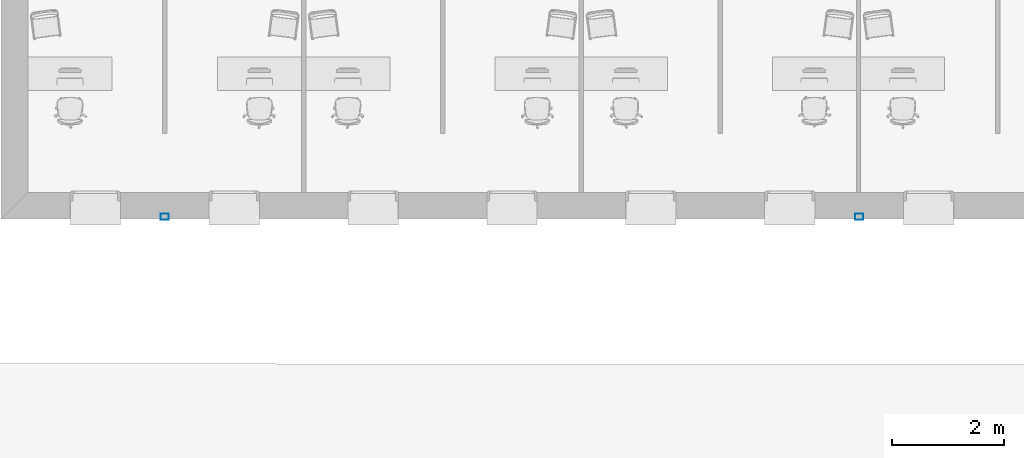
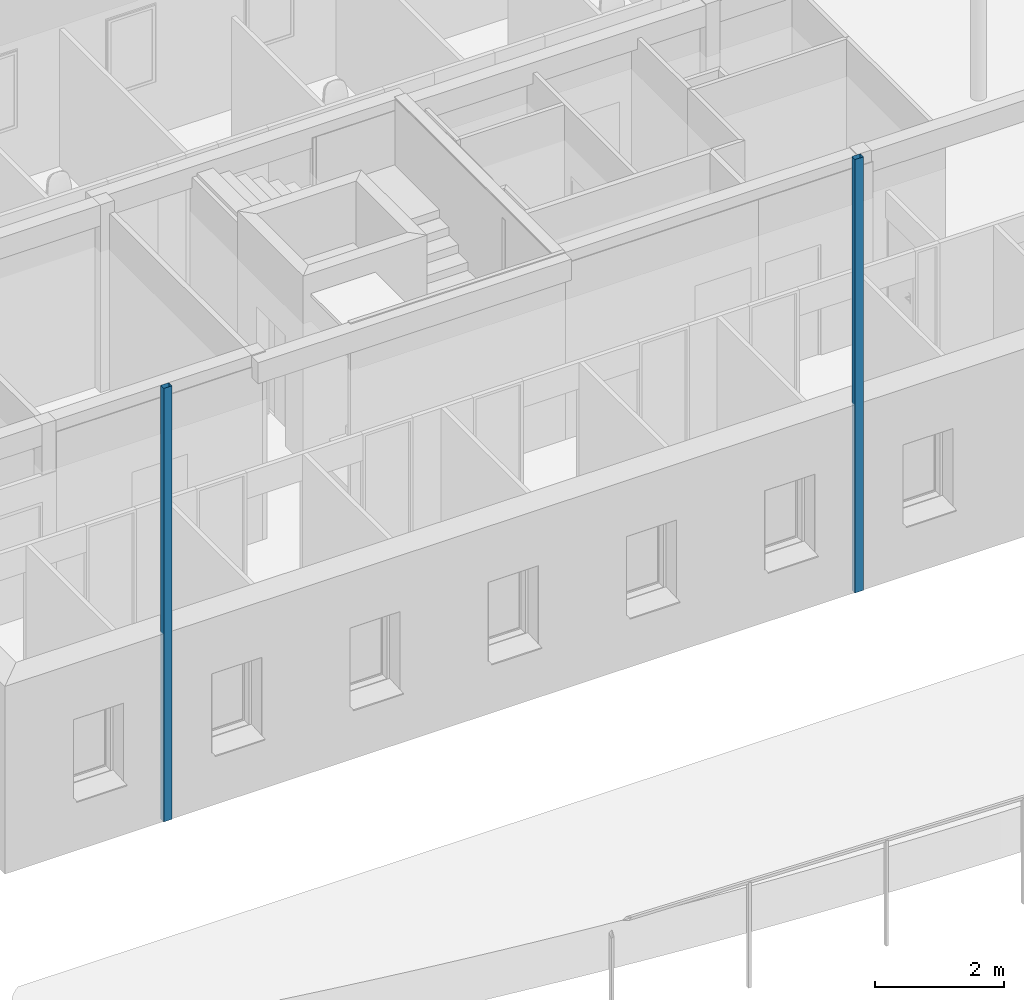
# One storey, part 35 of 91: 2 discrete accessories.
"""IFC2X3 building model written with IfcOpenShell, lengths in metres."""

from ifc_helpers import new_model, entity, si_unit, converted_unit, derived_unit, money_unit, direction, frame, origin_with_axes, place, context, subcontext, project, spatial, open_shell, surface_model, source, transform, mapped, type_object, element, save


model = new_model("IFC2X3")

# Units and contexts
model_context = context("Model", 3, precision=1e-05, world=origin_with_axes(), true_north=direction((0.0, 1.0)))
body_context = subcontext(model_context, "Body", "Model", "MODEL_VIEW")
ifc_project = project(units=[si_unit("LENGTHUNIT", "METRE"), si_unit("AREAUNIT", "SQUARE_METRE"), si_unit("VOLUMEUNIT", "CUBIC_METRE"), converted_unit("PLANEANGLEUNIT", "DEGREE", entity("IfcPlaneAngleMeasure", 0.0174532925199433), si_unit("PLANEANGLEUNIT", "RADIAN"), dimensions=[0, 0, 0, 0, 0, 0, 0]), money_unit("EUR"), converted_unit("TIMEUNIT", "Year", entity("IfcTimeMeasure", 31557600.0), si_unit("TIMEUNIT", "SECOND"), dimensions=[0, 0, 1, 0, 0, 0, 0]), si_unit("MASSUNIT", "GRAM", prefix="KILO"), si_unit("THERMODYNAMICTEMPERATUREUNIT", "DEGREE_CELSIUS"), si_unit("LUMINOUSINTENSITYUNIT", "LUMEN"), si_unit("ENERGYUNIT", "JOULE", prefix="MEGA"), derived_unit("THERMALCONDUCTANCEUNIT", [(si_unit("POWERUNIT", "WATT"), 1), (si_unit("LENGTHUNIT", "METRE"), -1), (si_unit("THERMODYNAMICTEMPERATUREUNIT", "KELVIN"), -1)]), derived_unit("SPECIFICHEATCAPACITYUNIT", [(si_unit("ENERGYUNIT", "JOULE"), 1), (si_unit("MASSUNIT", "GRAM", prefix="KILO"), -1), (si_unit("THERMODYNAMICTEMPERATUREUNIT", "KELVIN"), -1)]), derived_unit("MASSDENSITYUNIT", [(si_unit("MASSUNIT", "GRAM", prefix="KILO"), 1), (si_unit("VOLUMEUNIT", "CUBIC_METRE"), -1)])], contexts=[model_context])

# Site, building, storey
site_placement = place(None, origin_with_axes())
site = spatial("IfcSite", under=ifc_project, at=site_placement, Name="Site", CompositionType="ELEMENT")
building_placement = place(site_placement, origin_with_axes())
building = spatial("IfcBuilding", under=site, at=building_placement, Name="Bâtiment", CompositionType="ELEMENT")
storey_placement = place(building_placement, origin_with_axes())
storey = spatial("IfcBuildingStorey", under=building, at=storey_placement, Name="RDC", CompositionType="ELEMENT", Elevation=0.0)

# Discrete accessories
discrete_accessory_type = type_object("IfcDiscreteAccessoryType", Name="Tuyau descente 27")
shared_shape = source(origin_with_axes(), body_context, "Body", "SurfaceModel", [
    surface_model("IfcShellBasedSurfaceModel", [(-0.075, -0.05, 8.22), (-0.075, 0.05, 8.22), (-0.075, 0.05, 0.0), (-0.075, -0.05, 0.0), (0.075, 0.05, 8.22), (0.075, 0.05, 0.0), (0.075, -0.05, 8.22), (0.075, -0.05, 0.0)], [open_shell([[[0, 1, 2, 3]], [[1, 4, 5, 2]], [[6, 0, 3, 7]], [[4, 6, 7, 5]]])]),
])
for number, where, z_axis, x_axis in (
    (1, (39.94299999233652, -27.39556215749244, 0.0), (0.0, 0.0, 1.0), (1.0, 0.0, 0.0)),
    (2, (27.54299999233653, -27.39556215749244, 0.0), (0.0, 0.0, 1.0), (1.0, 0.0, 0.0)),
):
    element("IfcDiscreteAccessory", number, at=place(storey_placement, frame(where, z_axis=z_axis, x_axis=x_axis)), inside=storey, type_object=discrete_accessory_type, Name="D.E.P", context=body_context, shape_type="MappedRepresentation", body=[
        mapped(shared_shape, transform((0.0, 0.0, 0.0))),
    ])

save(model, "model.ifc")
